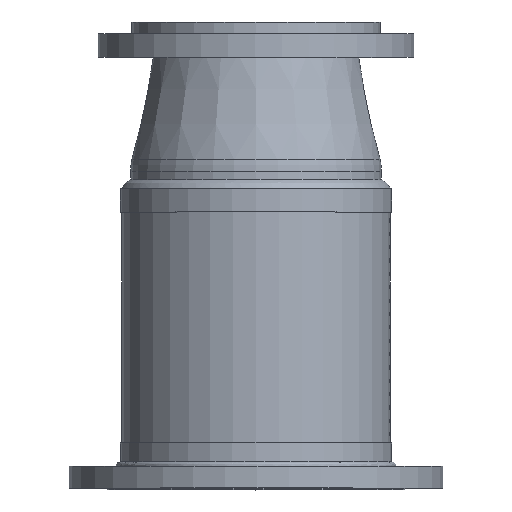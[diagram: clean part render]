
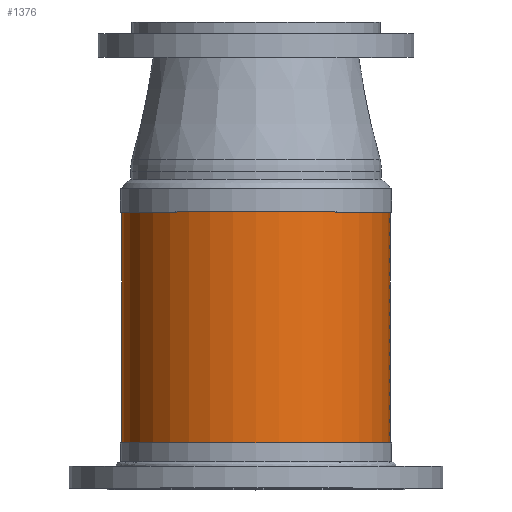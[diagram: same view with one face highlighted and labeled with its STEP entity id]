
A CAD part, top view. The second image highlights one B-rep face of the part: STEP entity #1376.
In plain terms, the highlighted cylindrical face has radius 146.152 mm (diameter 292.303 mm), a full revolution.
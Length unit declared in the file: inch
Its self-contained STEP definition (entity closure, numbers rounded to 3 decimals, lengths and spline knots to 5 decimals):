
#1342=CARTESIAN_POINT('',(-5.754,-5.9375,0.));
#1343=VERTEX_POINT('',#1342);
#1344=CARTESIAN_POINT('',(0.0,-5.9375,0.0));
#1345=DIRECTION('',(0.0,1.0,0.0));
#1346=DIRECTION('',(1.0,0.0,0.0));
#1347=AXIS2_PLACEMENT_3D('',#1344,#1345,#1346);
#1348=CIRCLE('',#1347,5.754);
#1349=EDGE_CURVE('',#1343,#1343,#1348,.T.);
#1357=CARTESIAN_POINT('',(0.0,0.0,0.0));
#1358=DIRECTION('',(0.0,1.0,0.0));
#1359=DIRECTION('',(1.0,0.0,0.0));
#1360=AXIS2_PLACEMENT_3D('',#1357,#1358,#1359);
#1361=CYLINDRICAL_SURFACE('',#1360,5.754);
#1362=ORIENTED_EDGE('',*,*,#1349,.T.);
#1363=EDGE_LOOP('',(#1362));
#1364=FACE_OUTER_BOUND('',#1363,.T.);
#1365=CARTESIAN_POINT('',(-5.754,5.9375,0.));
#1366=VERTEX_POINT('',#1365);
#1367=CARTESIAN_POINT('',(0.0,5.9375,0.0));
#1368=DIRECTION('',(0.0,-1.0,0.0));
#1369=DIRECTION('',(1.0,0.0,0.0));
#1370=AXIS2_PLACEMENT_3D('',#1367,#1368,#1369);
#1371=CIRCLE('',#1370,5.754);
#1372=EDGE_CURVE('',#1366,#1366,#1371,.T.);
#1373=ORIENTED_EDGE('',*,*,#1372,.T.);
#1374=EDGE_LOOP('',(#1373));
#1375=FACE_BOUND('',#1374,.T.);
#1376=ADVANCED_FACE('',(#1364,#1375),#1361,.T.);
